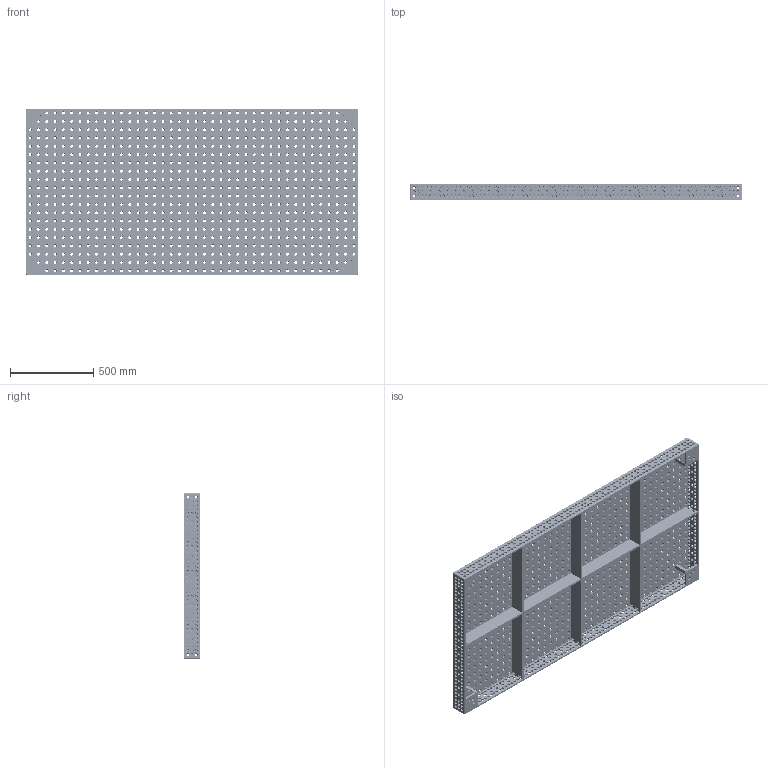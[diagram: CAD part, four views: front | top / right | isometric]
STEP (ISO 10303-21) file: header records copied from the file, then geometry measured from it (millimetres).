
FILE_DESCRIPTION (( 'STEP AP203' ), '1' );
FILE_NAME ('160020.X7D.T1 - 16003127_16003127_16003128_16001985_______.step', '2022-06-07T13:05:02', ( '' ), ( '' ), 'SwSTEP 2.0', 'SolidWorks 2020', '' );
FILE_SCHEMA (( 'CONFIG_CONTROL_DESIGN' ));
Products named in the file (1): 160020.X7D.T1 - 16003127_16003127_16003128_16001985_______
Bounding box: 2000 x 100 x 1000 mm (x, y, z)
Volume: 32036939.7 mm3; surface area: 6181299.8 mm2
Topology: 1 solids, 1 shells, 8622 faces, 20236 edges, 11600 vertices
Faces by surface type: cone 2852, cylinder 2840, torus 2804, plane 118, bspline 8
Entity records: 254921 total; most frequent: DIRECTION 51590, CARTESIAN_POINT 41699, ORIENTED_EDGE 40472, AXIS2_PLACEMENT_3D 22755, EDGE_CURVE 20236, CIRCLE 14140, VERTEX_POINT 11600, EDGE_LOOP 11470
